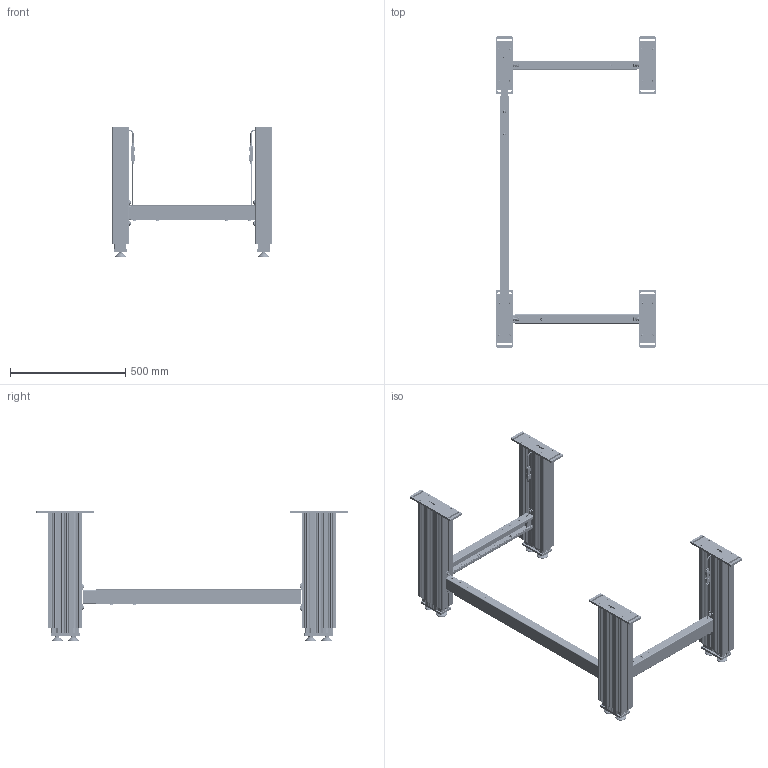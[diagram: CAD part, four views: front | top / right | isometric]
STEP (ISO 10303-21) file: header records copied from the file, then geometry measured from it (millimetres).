
FILE_DESCRIPTION(/* description */ ('Unknown'),/* implementation_level */ '2;1');
FILE_NAME(/* name */ 'Untergestell SM 4330 1050-1700 XX XX_00-Eingefahren',/* time_stamp */ '2022-08-15T09:35:20+02:00',/* author */ ('Unknown'),/* organization */ ('Unknown'),/* preprocessor_version */ 'ST-DEVELOPER v18.102',/* originating_system */ 'Solid Edge',/* authorisation */ 'Unknown');
FILE_SCHEMA (('AUTOMOTIVE_DESIGN {1 0 10303 214 3 1 1}'));
Products named in the file (47): Untergestell SM 4330 1050-1700 XX XX; 902.01023_oa_0; 126.00138; 119.00315; 119.00314; 142.00166; 124.00201_oa_1; 142.00241; 110.00113_oa_2; 115.00200_oa_3; 124.00151; Kabel Motor Sx; 142.00343; 127.00329; 113.00006; 113.00006-ohne Mutter; Mutter M10; 902.01023_oa_4; 124.00201_oa_5; 110.00113_oa_6; 115.00200_oa_7; 902.01023_oa_8; 124.00201_oa_9; 110.00113_oa_10; 115.00200_oa_11; 902.01023_oa_12; 124.00201_oa_13; 110.00113_oa_14; 115.00200_oa_15; 127.00631; 096599~1; 096600~1; Sechskantmutter M6 DIN 934; Scheibe Ø6,4 DIN 125; Halbrundkopfschraube mit Innensechskant M8x12 ISO 7380-1; Scheibe Ø8,4 DIN 125; Nutenstein M8_montiert; Halbrundkopfschraube mit Innensechskant und Bund M6x16 ISO 7380-2; 127.00632; 096611~1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
Assembly tree (137 placements, depth 3):
  Untergestell SM 4330 1050-1700 XX XX
    902.01023_oa_0
      126.00138
      119.00315
      119.00314
      142.00166  x4
      124.00201_oa_1
      142.00241  x2
      110.00113_oa_2
      115.00200_oa_3
      124.00151
      Kabel Motor Sx
      142.00343  x2
    127.00329  x4
    113.00006  x8
      113.00006-ohne Mutter
      Mutter M10
    902.01023_oa_4
      126.00138
      119.00315
      119.00314
      142.00166  x4
      124.00201_oa_5
      142.00241  x2
      110.00113_oa_6
      115.00200_oa_7
      124.00151
      Kabel Motor Sx
      142.00343  x2
    902.01023_oa_8
      126.00138
      119.00315
      119.00314
      142.00166  x4
      124.00201_oa_9
      142.00241  x2
      110.00113_oa_10
      115.00200_oa_11
      124.00151
      Kabel Motor Sx
      142.00343  x2
    902.01023_oa_12
      126.00138
      119.00315
      119.00314
      142.00166  x4
      124.00201_oa_13
      142.00241  x2
      110.00113_oa_14
      115.00200_oa_15
      124.00151
      Kabel Motor Sx
      142.00343  x2
    127.00631  x2
      096599~1
      096600~1
      Sechskantmutter M6 DIN 934
      Scheibe Ø6,4 DIN 125
      Halbrundkopfschraube mit Innensechskant M8x12 ISO 7380-1
      Scheibe Ø8,4 DIN 125
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Bounding box: 690 x 1350 x 563 mm (x, y, z)
Volume: 10785862.2 mm3; surface area: 5679699.9 mm2
Topology: 150 solids, 150 shells, 16468 faces, 45782 edges, 30178 vertices
Faces by surface type: plane 9192, cylinder 5920, torus 636, bspline 436, cone 248, sphere 36
Full cylindrical faces by diameter (mm): 1.5 x24, 1.82 x24, 2.459 x4, 2.7 x24, 3.242 x8, 3.4 x4, 4 x16, 5 x20, 5.5 x16, 6 x36, 6.4 x12, 6.6 x16, 6.647 x12, 7 x8, 8 x20, 8.376 x20, 8.5 x64, 8.7 x16, 9.5 x8, 10 x8, 12 x12, 12.5 x16, 13.6 x12, 14 x12, 15 x8, 16.8 x12, 19 x8, 25 x8, 29 x8, 30 x8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
Entity records: 154631 total; most frequent: CARTESIAN_POINT 28807, ORIENTED_EDGE 22276, DIRECTION 21940, EDGE_CURVE 11138, VERTEX_POINT 7449, AXIS2_PLACEMENT_3D 7400, LINE 7140, VECTOR 7140
